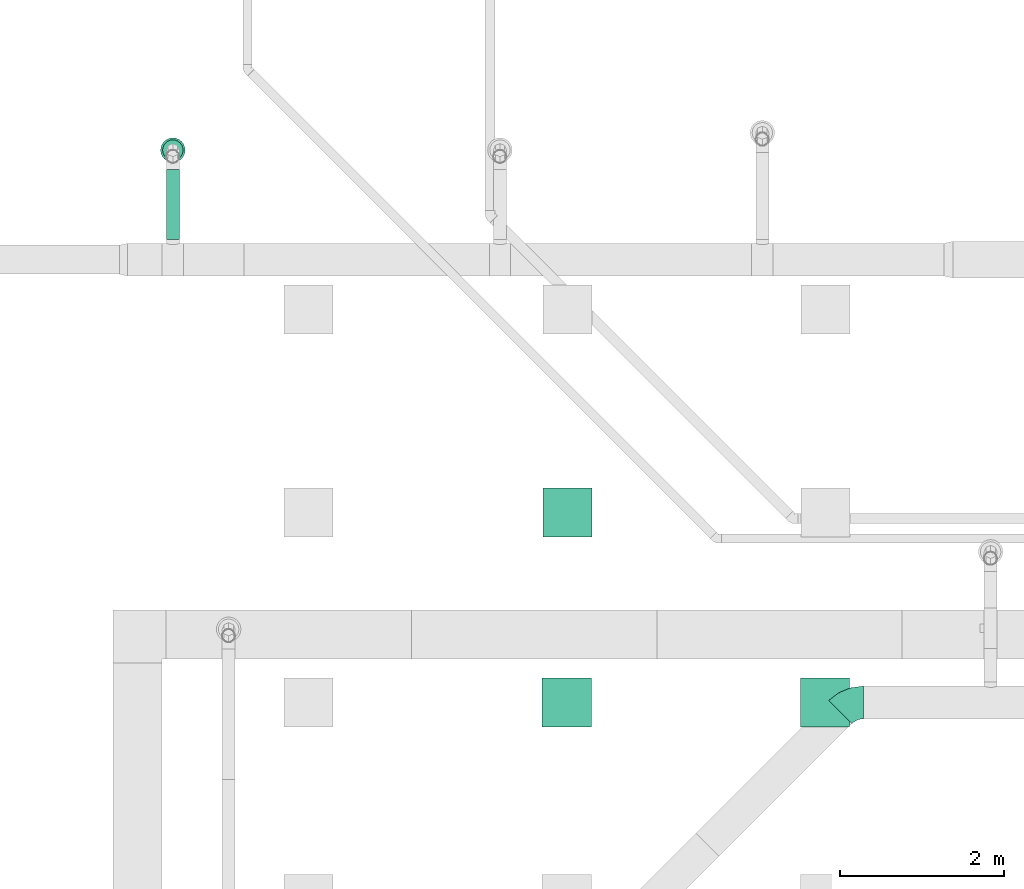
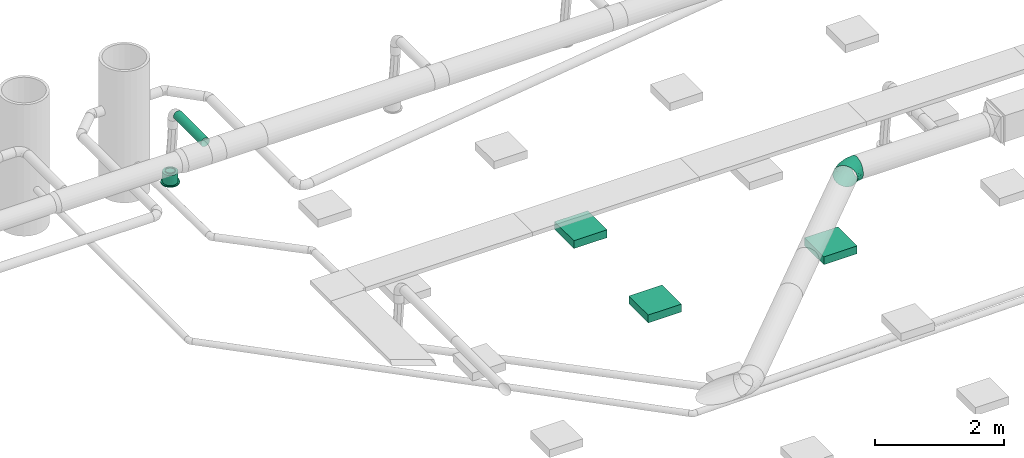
# One storey, part 147 of 374: 3 distribution elements, 1 flow fitting, 1 flow segment, 1 flow terminal.
"""IFC2X3 building model written with IfcOpenShell, lengths in metres."""

from ifc_helpers import new_model, si_unit, direction, frame, frame_2d, origin, place, context, subcontext, project, spatial, rectangle, extrude, open_shell, surface_model, source, transform, mapped, element, save


model = new_model("IFC2X3")

# Units and contexts
model_context = context("Model", 3, precision=1e-05, world=origin(), true_north=direction((-0.4480736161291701, 0.8939966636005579)))
body_context = subcontext(model_context, "Body", "Model", "MODEL_VIEW")
ifc_project = project(units=[si_unit("LENGTHUNIT", "METRE"), si_unit("AREAUNIT", "SQUARE_METRE"), si_unit("VOLUMEUNIT", "CUBIC_METRE"), si_unit("PLANEANGLEUNIT", "RADIAN"), si_unit("THERMODYNAMICTEMPERATUREUNIT", "KELVIN"), si_unit("MASSUNIT", "GRAM", prefix="KILO"), si_unit("TIMEUNIT", "SECOND")], contexts=[model_context])

# Site, building, storey
site_placement = place(None, origin())
site = spatial("IfcSite", under=ifc_project, at=site_placement, Name="Site 1", CompositionType="ELEMENT")
building_placement = place(site_placement, origin())
building = spatial("IfcBuilding", under=site, at=building_placement, Name="Undefined", CompositionType="ELEMENT")
storey_placement = place(building_placement, origin())
storey = spatial("IfcBuildingStorey", under=building, at=storey_placement, Name="Rez de chauss\x8ee", CompositionType="ELEMENT", Elevation=0.0)

# Flow terminal
shared_shape_1 = source(origin(), body_context, "Body", "SurfaceModel", [
    surface_model("IfcFaceBasedSurfaceModel", [(0.0, 0.0, 0.0), (0.03915785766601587, 0.0, 0.0), (0.03915785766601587, 0.020000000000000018, 0.0), (3.552713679e-15, 0.020000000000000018, 0.0), (0.07698144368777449, 0.0, -0.010134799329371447), (0.07698144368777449, 0.020000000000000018, -0.010134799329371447), (0.11089314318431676, 0.0, -0.02971372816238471), (0.11089314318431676, 0.020000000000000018, -0.02971372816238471), (0.13858192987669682, 0.0, -0.05740251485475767), (0.13858192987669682, 0.020000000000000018, -0.05740251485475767), (0.15816085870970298, 0.0, -0.09131421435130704), (0.15816085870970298, 0.020000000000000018, -0.09131421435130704), (0.16829565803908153, 0.0, -0.12913780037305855), (0.16829565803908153, 0.020000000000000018, -0.12913780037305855), (0.16829565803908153, 0.0, -0.16829565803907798), (0.16829565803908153, 0.020000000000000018, -0.16829565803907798), (0.15816085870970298, 0.0, -0.20611924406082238), (0.15816085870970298, 0.020000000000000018, -0.20611924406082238), (0.13858192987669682, 0.0, -0.24003094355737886), (0.13858192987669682, 0.020000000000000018, -0.24003094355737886), (0.11089314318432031, 0.0, -0.2677197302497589), (0.11089314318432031, 0.020000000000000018, -0.2677197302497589), (0.07698144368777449, 0.0, -0.2872986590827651), (0.07698144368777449, 0.020000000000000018, -0.2872986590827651), (0.039157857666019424, 0.0, -0.29743345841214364), (0.039157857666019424, 0.020000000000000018, -0.29743345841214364), (3.552713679e-15, 0.0, -0.29743345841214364), (3.552713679e-15, 0.020000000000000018, -0.29743345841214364), (-0.03782358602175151, 0.0, -0.2872986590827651), (-0.03782358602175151, 0.020000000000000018, -0.2872986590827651), (-0.07173528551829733, 0.0, -0.2677197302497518), (-0.07173528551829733, 0.020000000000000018, -0.2677197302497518), (-0.0994240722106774, 0.0, -0.24003094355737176), (-0.0994240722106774, 0.020000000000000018, -0.24003094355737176), (-0.11900300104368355, 0.0, -0.2061192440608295), (-0.11900300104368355, 0.020000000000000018, -0.2061192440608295), (-0.1291378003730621, 0.0, -0.16829565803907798), (-0.1291378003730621, 0.020000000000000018, -0.16829565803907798), (-0.1291378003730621, 0.0, -0.12913780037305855), (-0.1291378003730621, 0.020000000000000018, -0.12913780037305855), (-0.11900300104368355, 0.0, -0.09131421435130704), (-0.11900300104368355, 0.020000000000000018, -0.09131421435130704), (-0.0994240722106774, 0.0, -0.05740251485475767), (-0.0994240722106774, 0.020000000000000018, -0.05740251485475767), (-0.07173528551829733, 0.0, -0.029713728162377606), (-0.07173528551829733, 0.020000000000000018, -0.029713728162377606), (-0.03782358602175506, 0.0, -0.010134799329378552), (-0.03782358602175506, 0.020000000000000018, -0.010134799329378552), (0.019578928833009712, 0.0, -0.14871672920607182), (0.019578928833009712, 0.020000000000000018, -0.14871672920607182), (0.003263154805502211, 0.020000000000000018, -0.02478612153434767), (0.035894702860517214, 0.020000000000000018, -0.02478612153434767), (0.035894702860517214, 0.20999999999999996, -0.02478612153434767), (0.003263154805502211, 0.20999999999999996, -0.02478612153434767), (0.06741435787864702, 0.020000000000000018, -0.033231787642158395), (0.06741435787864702, 0.20999999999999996, -0.033231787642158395), (0.0956741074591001, 0.020000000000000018, -0.04954756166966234), (0.0956741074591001, 0.20999999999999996, -0.04954756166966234), (0.11874809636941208, 0.020000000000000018, -0.07262155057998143), (0.11874809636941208, 0.20999999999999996, -0.07262155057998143), (0.13506387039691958, 0.020000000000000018, -0.10088130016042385), (0.13506387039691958, 0.20999999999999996, -0.10088130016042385), (0.1435095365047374, 0.020000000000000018, -0.13240095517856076), (0.1435095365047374, 0.20999999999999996, -0.13240095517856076), (0.1435095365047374, 0.020000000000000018, -0.16503250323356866), (0.1435095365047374, 0.20999999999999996, -0.16503250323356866), (0.13506387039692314, 0.020000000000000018, -0.19655215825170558), (0.13506387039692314, 0.20999999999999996, -0.19655215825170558), (0.11874809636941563, 0.020000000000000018, -0.2248119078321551), (0.11874809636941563, 0.20999999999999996, -0.2248119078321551), (0.09567410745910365, 0.020000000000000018, -0.24788589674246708), (0.09567410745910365, 0.20999999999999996, -0.24788589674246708), (0.06741435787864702, 0.020000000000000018, -0.26420167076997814), (0.06741435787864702, 0.20999999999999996, -0.26420167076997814), (0.035894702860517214, 0.020000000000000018, -0.27264733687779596), (0.035894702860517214, 0.20999999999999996, -0.27264733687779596), (0.0032631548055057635, 0.020000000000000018, -0.27264733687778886), (0.0032631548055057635, 0.20999999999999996, -0.27264733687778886), (-0.028256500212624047, 0.020000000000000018, -0.26420167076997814), (-0.028256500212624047, 0.20999999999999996, -0.26420167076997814), (-0.05651624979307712, 0.020000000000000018, -0.2478858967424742), (-0.05651624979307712, 0.20999999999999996, -0.2478858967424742), (-0.07959023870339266, 0.020000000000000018, -0.2248119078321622), (-0.07959023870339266, 0.20999999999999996, -0.2248119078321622), (-0.09590601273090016, 0.020000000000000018, -0.19655215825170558), (-0.09590601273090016, 0.20999999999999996, -0.19655215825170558), (-0.10435167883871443, 0.020000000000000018, -0.16503250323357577), (-0.10435167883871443, 0.20999999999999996, -0.16503250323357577), (-0.10435167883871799, 0.020000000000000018, -0.13240095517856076), (-0.10435167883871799, 0.20999999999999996, -0.13240095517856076), (-0.09590601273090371, 0.020000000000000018, -0.10088130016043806), (-0.09590601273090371, 0.20999999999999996, -0.10088130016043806), (-0.07959023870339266, 0.020000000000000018, -0.07262155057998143), (-0.07959023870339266, 0.20999999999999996, -0.07262155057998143), (-0.056516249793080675, 0.020000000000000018, -0.04954756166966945), (-0.056516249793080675, 0.20999999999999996, -0.04954756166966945), (-0.028256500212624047, 0.020000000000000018, -0.033231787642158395), (-0.028256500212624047, 0.20999999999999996, -0.033231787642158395), (0.019578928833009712, 0.20999999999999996, -0.14871672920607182), (0.009136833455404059, 0.20999999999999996, -0.06940114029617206), (0.030021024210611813, 0.20999999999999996, -0.06940114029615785), (0.030021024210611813, 0.22999999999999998, -0.06940114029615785), (0.009136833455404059, 0.22999999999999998, -0.06940114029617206), (0.05019360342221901, 0.20999999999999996, -0.07480636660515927), (0.05019360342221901, 0.22999999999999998, -0.07480636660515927), (0.06827984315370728, 0.20999999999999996, -0.08524846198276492), (0.06827984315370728, 0.22999999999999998, -0.08524846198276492), (0.0830471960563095, 0.20999999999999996, -0.10001581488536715), (0.0830471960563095, 0.22999999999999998, -0.10001581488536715), (0.0934892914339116, 0.20999999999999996, -0.11810205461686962), (0.0934892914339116, 0.22999999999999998, -0.11810205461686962), (0.09889451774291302, 0.20999999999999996, -0.13827463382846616), (0.09889451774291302, 0.22999999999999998, -0.13827463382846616), (0.09889451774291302, 0.20999999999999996, -0.15915882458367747), (0.09889451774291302, 0.22999999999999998, -0.15915882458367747), (0.09348929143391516, 0.20999999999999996, -0.179331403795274), (0.09348929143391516, 0.22999999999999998, -0.179331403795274), (0.0830471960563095, 0.20999999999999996, -0.19741764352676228), (0.0830471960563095, 0.22999999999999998, -0.19741764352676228), (0.06827984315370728, 0.20999999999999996, -0.2121849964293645), (0.06827984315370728, 0.22999999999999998, -0.2121849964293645), (0.05019360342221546, 0.20999999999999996, -0.22262709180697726), (0.05019360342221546, 0.22999999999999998, -0.22262709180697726), (0.030021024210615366, 0.20999999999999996, -0.22803231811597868), (0.030021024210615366, 0.22999999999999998, -0.22803231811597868), (0.009136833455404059, 0.20999999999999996, -0.22803231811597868), (0.009136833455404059, 0.22999999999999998, -0.22803231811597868), (-0.011035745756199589, 0.20999999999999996, -0.22262709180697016), (-0.011035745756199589, 0.22999999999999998, -0.22262709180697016), (-0.0291219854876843, 0.20999999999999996, -0.2121849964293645), (-0.0291219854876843, 0.22999999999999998, -0.2121849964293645), (-0.043889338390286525, 0.20999999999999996, -0.19741764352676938), (-0.043889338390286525, 0.22999999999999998, -0.19741764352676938), (-0.05433143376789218, 0.20999999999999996, -0.17933140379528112), (-0.05433143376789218, 0.22999999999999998, -0.17933140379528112), (-0.05973666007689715, 0.20999999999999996, -0.15915882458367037), (-0.05973666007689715, 0.22999999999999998, -0.15915882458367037), (-0.0597366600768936, 0.20999999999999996, -0.13827463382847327), (-0.0597366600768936, 0.22999999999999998, -0.13827463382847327), (-0.05433143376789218, 0.20999999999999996, -0.11810205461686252), (-0.05433143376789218, 0.22999999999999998, -0.11810205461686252), (-0.043889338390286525, 0.20999999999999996, -0.10001581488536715), (-0.043889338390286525, 0.22999999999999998, -0.10001581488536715), (-0.02912198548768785, 0.20999999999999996, -0.08524846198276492), (-0.02912198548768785, 0.22999999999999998, -0.08524846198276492), (-0.011035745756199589, 0.20999999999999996, -0.07480636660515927), (-0.011035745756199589, 0.22999999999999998, -0.07480636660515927)], [open_shell([[[0, 1, 2, 3]], [[1, 4, 5, 2]], [[4, 6, 7, 5]], [[6, 8, 9, 7]], [[8, 10, 11, 9]], [[10, 12, 13, 11]], [[12, 14, 15, 13]], [[14, 16, 17, 15]], [[16, 18, 19, 17]], [[18, 20, 21, 19]], [[20, 22, 23, 21]], [[22, 24, 25, 23]], [[24, 26, 27, 25]], [[26, 28, 29, 27]], [[28, 30, 31, 29]], [[30, 32, 33, 31]], [[32, 34, 35, 33]], [[34, 36, 37, 35]], [[36, 38, 39, 37]], [[38, 40, 41, 39]], [[40, 42, 43, 41]], [[42, 44, 45, 43]], [[44, 46, 47, 45]], [[46, 0, 3, 47]], [[48, 1, 0]], [[48, 4, 1]], [[48, 6, 4]], [[48, 8, 6]], [[48, 10, 8]], [[48, 12, 10]], [[48, 14, 12]], [[48, 16, 14]], [[48, 18, 16]], [[48, 20, 18]], [[48, 22, 20]], [[48, 24, 22]], [[48, 26, 24]], [[48, 28, 26]], [[48, 30, 28]], [[48, 32, 30]], [[48, 34, 32]], [[48, 36, 34]], [[48, 38, 36]], [[48, 40, 38]], [[48, 42, 40]], [[48, 44, 42]], [[48, 46, 44]], [[48, 0, 46]], [[49, 47, 3]], [[49, 45, 47]], [[49, 43, 45]], [[49, 41, 43]], [[49, 39, 41]], [[49, 37, 39]], [[49, 35, 37]], [[49, 33, 35]], [[49, 31, 33]], [[49, 29, 31]], [[49, 27, 29]], [[49, 25, 27]], [[49, 23, 25]], [[49, 21, 23]], [[49, 19, 21]], [[49, 17, 19]], [[49, 15, 17]], [[49, 13, 15]], [[49, 11, 13]], [[49, 9, 11]], [[49, 7, 9]], [[49, 5, 7]], [[49, 2, 5]], [[49, 3, 2]], [[50, 51, 52, 53]], [[51, 54, 55, 52]], [[54, 56, 57, 55]], [[56, 58, 59, 57]], [[58, 60, 61, 59]], [[60, 62, 63, 61]], [[62, 64, 65, 63]], [[64, 66, 67, 65]], [[66, 68, 69, 67]], [[68, 70, 71, 69]], [[70, 72, 73, 71]], [[72, 74, 75, 73]], [[74, 76, 77, 75]], [[76, 78, 79, 77]], [[78, 80, 81, 79]], [[80, 82, 83, 81]], [[82, 84, 85, 83]], [[84, 86, 87, 85]], [[86, 88, 89, 87]], [[88, 90, 91, 89]], [[90, 92, 93, 91]], [[92, 94, 95, 93]], [[94, 96, 97, 95]], [[96, 50, 53, 97]], [[49, 51, 50]], [[49, 54, 51]], [[49, 56, 54]], [[49, 58, 56]], [[49, 60, 58]], [[49, 62, 60]], [[49, 64, 62]], [[49, 66, 64]], [[49, 68, 66]], [[49, 70, 68]], [[49, 72, 70]], [[49, 74, 72]], [[49, 76, 74]], [[49, 78, 76]], [[49, 80, 78]], [[49, 82, 80]], [[49, 84, 82]], [[49, 86, 84]], [[49, 88, 86]], [[49, 90, 88]], [[49, 92, 90]], [[49, 94, 92]], [[49, 96, 94]], [[49, 50, 96]], [[98, 97, 53]], [[98, 95, 97]], [[98, 93, 95]], [[98, 91, 93]], [[98, 89, 91]], [[98, 87, 89]], [[98, 85, 87]], [[98, 83, 85]], [[98, 81, 83]], [[98, 79, 81]], [[98, 77, 79]], [[98, 75, 77]], [[98, 73, 75]], [[98, 71, 73]], [[98, 69, 71]], [[98, 67, 69]], [[98, 65, 67]], [[98, 63, 65]], [[98, 61, 63]], [[98, 59, 61]], [[98, 57, 59]], [[98, 55, 57]], [[98, 52, 55]], [[98, 53, 52]], [[99, 100, 101, 102]], [[100, 103, 104, 101]], [[103, 105, 106, 104]], [[105, 107, 108, 106]], [[107, 109, 110, 108]], [[109, 111, 112, 110]], [[111, 113, 114, 112]], [[113, 115, 116, 114]], [[115, 117, 118, 116]], [[117, 119, 120, 118]], [[119, 121, 122, 120]], [[121, 123, 124, 122]], [[123, 125, 126, 124]], [[125, 127, 128, 126]], [[127, 129, 130, 128]], [[129, 131, 132, 130]], [[131, 133, 134, 132]], [[133, 135, 136, 134]], [[135, 137, 138, 136]], [[137, 139, 140, 138]], [[139, 141, 142, 140]], [[141, 143, 144, 142]], [[143, 145, 146, 144]], [[145, 99, 102, 146]]])]),
])
flow_terminal_placement = place(storey_placement, origin())
element("IfcFlowTerminal", 1, at=flow_terminal_placement, inside=storey, Name="Air diffuseur - bouche", ObjectType="Air diffuseur - bouche", context=body_context, shape_type="MappedRepresentation", body=[
    mapped(shared_shape_1, transform((34.2932894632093, 21.716888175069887, 2.38), x_axis=(0.9914448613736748, 0.13052619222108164, 0.0), y_axis=(0.0, 0.0, 1.0), z_axis=(0.13052619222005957, -0.9914448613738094, 0.0))),
])

# Flow fitting
shared_shape_2 = source(origin(), body_context, "Body", "SurfaceModel", [
    surface_model("IfcFaceBasedSurfaceModel", [(0.15663143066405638, 0.0, 0.0), (0.1557419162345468, 0.05220289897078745, 3.552713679e-15), (0.0008895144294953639, 0.05220289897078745, 3.552713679e-15), (0.0, 0.0, 0.0), (-0.14868641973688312, 0.057390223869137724, -0.03974163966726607), (-0.15129434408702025, 0.005246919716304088, -0.04019821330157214), (-0.2827925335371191, 0.06741136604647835, -0.11651659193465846), (-0.28694114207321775, 0.01538319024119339, -0.11785519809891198), (0.15313399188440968, 0.10259722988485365, -0.013399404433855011), (0.0034974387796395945, 0.10259722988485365, -0.013399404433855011), (-0.14104037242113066, 0.10760983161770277, -0.05180243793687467), (-0.2706294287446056, 0.11729343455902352, -0.12599140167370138), (0.1489853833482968, 0.14774870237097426, -0.03928506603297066), (0.007646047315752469, 0.14774870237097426, -0.03928506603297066), (-0.1288772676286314, 0.1524833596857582, -0.07555868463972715), (-0.25128072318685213, 0.161630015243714, -0.14563393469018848), (0.14357881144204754, 0.18458031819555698, -0.07589291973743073), (0.013052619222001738, 0.18458031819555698, -0.07589291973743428), (-0.1130260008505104, 0.18895275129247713, -0.10939143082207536), (-0.2260649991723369, 0.19739964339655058, -0.17410558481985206), (0.1372827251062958, 0.2105820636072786, -0.1207282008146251), (0.019348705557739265, 0.2105820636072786, -0.12072820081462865), (-0.0945668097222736, 0.21453267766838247, -0.15099503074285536), (-0.19670066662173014, 0.22216467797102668, -0.20946605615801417), (0.1305261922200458, 0.22398196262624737, -0.1707354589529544), (0.02610523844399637, 0.22398196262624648, -0.17073545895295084), (-0.07475765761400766, 0.22747990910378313, -0.19753426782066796), (-0.1651888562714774, 0.23423742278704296, -0.2493055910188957), (0.1237696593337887, 0.22386683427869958, -0.22250678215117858), (0.032861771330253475, 0.22386683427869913, -0.22250678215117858), (-0.05494850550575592, 0.22691211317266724, -0.24583756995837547), (-0.13367704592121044, 0.23279514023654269, -0.2909091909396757), (0.11747357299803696, 0.21024452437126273, -0.2725140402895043), (0.039157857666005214, 0.21024452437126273, -0.2725140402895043), (-0.03648931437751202, 0.2128679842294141, -0.29261314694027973), (-0.10431271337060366, 0.21793611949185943, -0.33144163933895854), (0.1120670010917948, 0.1840433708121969, -0.31734932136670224), (0.04456442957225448, 0.18404337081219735, -0.3173493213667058), (-0.020638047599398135, 0.1863046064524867, -0.33467332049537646), (-0.07909698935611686, 0.19067297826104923, -0.3681407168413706), (0.10791839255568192, 0.14704893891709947, -0.35395717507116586), (0.04871303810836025, 0.14704893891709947, -0.3539571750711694), (-0.008474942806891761, 0.1490322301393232, -0.3691517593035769), (-0.05974828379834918, 0.15286365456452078, -0.39850544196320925), (0.10531046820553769, 0.10178233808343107, -0.3798428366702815), (0.05132096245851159, 0.10178233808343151, -0.3798428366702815), (-0.0008288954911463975, 0.1035909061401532, -0.3936988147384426), (-0.04758517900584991, 0.1070847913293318, -0.4204665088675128), (0.10442095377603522, 0.05132841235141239, -0.3932422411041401), (0.052210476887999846, 0.05132841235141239, -0.3932422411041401), (0.0017790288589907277, 0.05307738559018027, -0.4066416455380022), (-0.043436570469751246, 0.056456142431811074, -0.4325273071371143), (0.10531046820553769, -0.0008744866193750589, -0.39324224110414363), (0.05132096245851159, -0.0008744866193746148, -0.39324224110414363), (-0.0008288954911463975, 0.0009340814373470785, -0.4070982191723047), (-0.04758517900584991, 0.00442796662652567, -0.4338659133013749), (0.10791839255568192, -0.051268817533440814, -0.3798428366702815), (0.04871303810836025, -0.051268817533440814, -0.37984283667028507), (-0.008474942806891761, -0.049285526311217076, -0.39503742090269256), (-0.05974828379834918, -0.045454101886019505, -0.4243911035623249), (0.1120670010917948, -0.09642029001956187, -0.35395717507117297), (0.04456442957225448, -0.09642029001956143, -0.3539571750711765), (-0.020638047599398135, -0.09415905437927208, -0.3712811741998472), (-0.07909698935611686, -0.08979068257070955, -0.40474857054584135), (0.11747357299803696, -0.1332519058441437, -0.31734932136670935), (0.039157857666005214, -0.1332519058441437, -0.31734932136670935), (-0.03648931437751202, -0.13062844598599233, -0.33744842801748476), (-0.10431271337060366, -0.125560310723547, -0.37627692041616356), (0.1237696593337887, -0.15925365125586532, -0.27251404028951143), (0.032861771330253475, -0.15925365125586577, -0.27251404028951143), (-0.05494850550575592, -0.15620837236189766, -0.2958448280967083), (-0.13367704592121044, -0.15032534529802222, -0.34091644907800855), (0.1305261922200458, -0.17265355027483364, -0.22250678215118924), (0.02610523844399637, -0.17265355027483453, -0.2225067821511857), (-0.07475765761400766, -0.16915560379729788, -0.24930559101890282), (-0.1651888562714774, -0.16239809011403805, -0.30107691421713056), (0.1372827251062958, -0.17253842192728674, -0.17073545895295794), (0.019348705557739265, -0.17253842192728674, -0.1707354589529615), (-0.0945668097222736, -0.16858780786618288, -0.2010022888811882), (-0.19670066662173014, -0.16095580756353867, -0.259473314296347), (0.14357881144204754, -0.15891611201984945, -0.12072820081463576), (0.013052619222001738, -0.15891611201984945, -0.12072820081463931), (-0.1130260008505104, -0.1545436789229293, -0.1542267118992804), (-0.2260649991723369, -0.14609678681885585, -0.21894086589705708), (0.1489853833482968, -0.13271495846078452, -0.07589291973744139), (0.007646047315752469, -0.13271495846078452, -0.07589291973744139), (-0.1288772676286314, -0.12798030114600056, -0.11216653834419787), (-0.25128072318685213, -0.11883364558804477, -0.1822417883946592), (0.15313399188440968, -0.09572052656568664, -0.03928506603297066), (0.0034974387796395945, -0.09572052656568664, -0.03928506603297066), (-0.14104037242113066, -0.09070792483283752, -0.07768809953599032), (-0.2706294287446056, -0.08102432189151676, -0.15187706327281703), (0.1557419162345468, -0.05045392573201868, -0.013399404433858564), (0.0008895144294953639, -0.05045392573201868, -0.013399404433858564), (-0.14868641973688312, -0.0452666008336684, -0.05314104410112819), (-0.2827925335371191, -0.03524545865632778, -0.12991599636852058)], [open_shell([[[0, 1, 2, 3]], [[3, 2, 4, 5]], [[5, 4, 6, 7]], [[1, 8, 9, 2]], [[2, 9, 10, 4]], [[4, 10, 11, 6]], [[8, 12, 13, 9]], [[9, 13, 14, 10]], [[10, 14, 15, 11]], [[12, 16, 17, 13]], [[13, 17, 18, 14]], [[14, 18, 19, 15]], [[16, 20, 21, 17]], [[17, 21, 22, 18]], [[18, 22, 23, 19]], [[20, 24, 25, 21]], [[21, 25, 26, 22]], [[22, 26, 27, 23]], [[24, 28, 29, 25]], [[25, 29, 30, 26]], [[26, 30, 31, 27]], [[28, 32, 33, 29]], [[29, 33, 34, 30]], [[30, 34, 35, 31]], [[32, 36, 37, 33]], [[33, 37, 38, 34]], [[34, 38, 39, 35]], [[36, 40, 41, 37]], [[37, 41, 42, 38]], [[38, 42, 43, 39]], [[40, 44, 45, 41]], [[41, 45, 46, 42]], [[42, 46, 47, 43]], [[44, 48, 49, 45]], [[45, 49, 50, 46]], [[46, 50, 51, 47]], [[48, 52, 53, 49]], [[49, 53, 54, 50]], [[50, 54, 55, 51]], [[52, 56, 57, 53]], [[53, 57, 58, 54]], [[54, 58, 59, 55]], [[56, 60, 61, 57]], [[57, 61, 62, 58]], [[58, 62, 63, 59]], [[60, 64, 65, 61]], [[61, 65, 66, 62]], [[62, 66, 67, 63]], [[64, 68, 69, 65]], [[65, 69, 70, 66]], [[66, 70, 71, 67]], [[68, 72, 73, 69]], [[69, 73, 74, 70]], [[70, 74, 75, 71]], [[72, 76, 77, 73]], [[73, 77, 78, 74]], [[74, 78, 79, 75]], [[76, 80, 81, 77]], [[77, 81, 82, 78]], [[78, 82, 83, 79]], [[80, 84, 85, 81]], [[81, 85, 86, 82]], [[82, 86, 87, 83]], [[84, 88, 89, 85]], [[85, 89, 90, 86]], [[86, 90, 91, 87]], [[88, 92, 93, 89]], [[89, 93, 94, 90]], [[90, 94, 95, 91]], [[92, 0, 3, 93]], [[93, 3, 5, 94]], [[94, 5, 7, 95]]])]),
])
flow_fitting_placement = place(storey_placement, origin())
element("IfcFlowFitting", 2, at=flow_fitting_placement, inside=storey, Name="Coude", ObjectType="Coude", context=body_context, shape_type="MappedRepresentation", body=[
    mapped(shared_shape_2, transform((42.5818463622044, 15.293129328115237, 3.8000000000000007), x_axis=(0.9914448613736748, 0.13052619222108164, 0.0), y_axis=(0.016893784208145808, -0.12832103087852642, -0.9915887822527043), z_axis=(-0.12942830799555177, 0.9831056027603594, -0.12942830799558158))),
])

# Flow segment
shared_shape_3 = source(origin(), body_context, "Body", "SurfaceModel", [
    surface_model("IfcFaceBasedSurfaceModel", [(0.0, 0.020884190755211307, 0.0), (0.0, 0.0, 0.0), (0.8500000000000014, -7.105427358e-15, 0.0), (0.8500000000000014, 0.0208841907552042, 0.0), (0.0, -0.020172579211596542, -0.005405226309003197), (0.8500000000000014, -0.020172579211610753, -0.005405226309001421), (0.0, -0.03825881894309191, -0.015847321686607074), (0.8500000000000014, -0.038258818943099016, -0.015847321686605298), (0.0, -0.05302617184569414, -0.0306146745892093), (0.8500000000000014, -0.05302617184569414, -0.030614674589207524), (0.0, -0.06346826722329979, -0.04870091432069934), (0.8500000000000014, -0.06346826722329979, -0.048700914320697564), (0.0, -0.06887349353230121, -0.06887349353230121), (0.8500000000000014, -0.06887349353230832, -0.06887349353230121), (0.0, -0.06887349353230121, -0.08975768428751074), (0.8500000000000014, -0.06887349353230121, -0.08975768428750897), (0.0, -0.06346826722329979, -0.10993026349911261), (0.8500000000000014, -0.06346826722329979, -0.10993026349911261), (0.0, -0.05302617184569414, -0.12801650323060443), (0.8500000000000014, -0.05302617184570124, -0.12801650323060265), (0.0, -0.038258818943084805, -0.14278385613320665), (0.8500000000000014, -0.03825881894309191, -0.1427838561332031), (0.0, -0.020172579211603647, -0.15322595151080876), (0.8500000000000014, -0.020172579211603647, -0.15322595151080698), (0.0, 7.105427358e-15, -0.15863117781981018), (0.8500000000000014, 0.0, -0.1586311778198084), (0.0, 0.020884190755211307, -0.15863117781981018), (0.8500000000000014, 0.020884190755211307, -0.1586311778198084), (0.0, 0.04105676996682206, -0.15322595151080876), (0.8500000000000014, 0.041056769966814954, -0.1532259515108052), (0.0, 0.05914300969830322, -0.1427838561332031), (0.8500000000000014, 0.05914300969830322, -0.14278385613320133), (0.0, 0.07391036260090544, -0.12801650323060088), (0.8500000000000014, 0.07391036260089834, -0.12801650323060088), (0.0, 0.0843524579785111, -0.10993026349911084), (0.8500000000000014, 0.08435245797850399, -0.10993026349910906), (0.0, 0.08975768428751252, -0.08975768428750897), (0.8500000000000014, 0.08975768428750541, -0.08975768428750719), (0.0, 0.08975768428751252, -0.06887349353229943), (0.8500000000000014, 0.08975768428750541, -0.06887349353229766), (0.0, 0.0843524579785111, -0.048700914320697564), (0.8500000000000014, 0.08435245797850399, -0.04870091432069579), (0.0, 0.07391036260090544, -0.030614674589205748), (0.8500000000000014, 0.07391036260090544, -0.030614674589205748), (0.0, 0.05914300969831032, -0.015847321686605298), (0.8500000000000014, 0.05914300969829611, -0.01584732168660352), (0.0, 0.04105676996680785, -0.005405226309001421), (0.8500000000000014, 0.04105676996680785, -0.005405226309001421)], [open_shell([[[0, 1, 2, 3]], [[1, 4, 5, 2]], [[4, 6, 7, 5]], [[6, 8, 9, 7]], [[8, 10, 11, 9]], [[10, 12, 13, 11]], [[12, 14, 15, 13]], [[14, 16, 17, 15]], [[16, 18, 19, 17]], [[18, 20, 21, 19]], [[20, 22, 23, 21]], [[22, 24, 25, 23]], [[24, 26, 27, 25]], [[26, 28, 29, 27]], [[28, 30, 31, 29]], [[30, 32, 33, 31]], [[32, 34, 35, 33]], [[34, 36, 37, 35]], [[36, 38, 39, 37]], [[38, 40, 41, 39]], [[40, 42, 43, 41]], [[42, 44, 45, 43]], [[44, 46, 47, 45]], [[46, 0, 3, 47]]])]),
])
flow_segment_placement = place(storey_placement, origin())
element("IfcFlowSegment", 3, at=flow_segment_placement, inside=storey, Name="Tube", ObjectType="Tube", context=body_context, shape_type="MappedRepresentation", body=[
    mapped(shared_shape_3, transform((34.27258393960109, 20.776888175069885, 3.7227259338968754), x_axis=(0.0, 1.0, 0.0), y_axis=(0.9914448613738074, 0.0, -0.13052619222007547), z_axis=(-0.13052619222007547, 0.0, -0.9914448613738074))),
])

# Distribution elements
distribution_element_1_placement = place(storey_placement, origin())
element("IfcDistributionElement", 4, at=distribution_element_1_placement, inside=storey, Name="Decken-Rechteckleuchte mit Rahmen AP", ObjectType="Decken-Rechteckleuchte mit Rahmen AP", context=body_context, shape_type="SweptSolid", body=[
    extrude(rectangle(XDim=0.6000000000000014, YDim=0.6000000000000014, at=frame_2d((3.552713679e-15, 0.0), x_axis=(0.0, 1.0))), frame((42.26749470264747, 15.1125, 2.5500000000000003), z_axis=(0.0, 0.0, -1.0), x_axis=(1.0, 0.0, 0.0)), (0.0, 0.0, 1.0), 0.15),
])
distribution_element_2_placement = place(storey_placement, origin())
element("IfcDistributionElement", 5, at=distribution_element_2_placement, inside=storey, Name="Decken-Rechteckleuchte mit Rahmen AP", ObjectType="Decken-Rechteckleuchte mit Rahmen AP", context=body_context, shape_type="SweptSolid", body=[
    extrude(rectangle(XDim=0.6000000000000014, YDim=0.6000000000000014, at=frame_2d((3.552713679e-15, 0.0), x_axis=(0.0, 1.0))), frame((39.109652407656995, 15.1125, 2.5500000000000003), z_axis=(0.0, 0.0, -1.0), x_axis=(1.0, 0.0, 0.0)), (0.0, 0.0, 1.0), 0.15),
])
distribution_element_3_placement = place(storey_placement, origin())
element("IfcDistributionElement", 6, at=distribution_element_3_placement, inside=storey, Name="Decken-Rechteckleuchte mit Rahmen AP", ObjectType="Decken-Rechteckleuchte mit Rahmen AP", context=body_context, shape_type="SweptSolid", body=[
    extrude(rectangle(XDim=0.6000000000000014, YDim=0.6000000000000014, at=frame_2d((3.552713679e-15, 0.0), x_axis=(0.0, 1.0))), frame((39.116394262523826, 17.437499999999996, 2.5500000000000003), z_axis=(0.0, 0.0, -1.0), x_axis=(1.0, 0.0, 0.0)), (0.0, 0.0, 1.0), 0.15),
])

save(model, "model.ifc")
